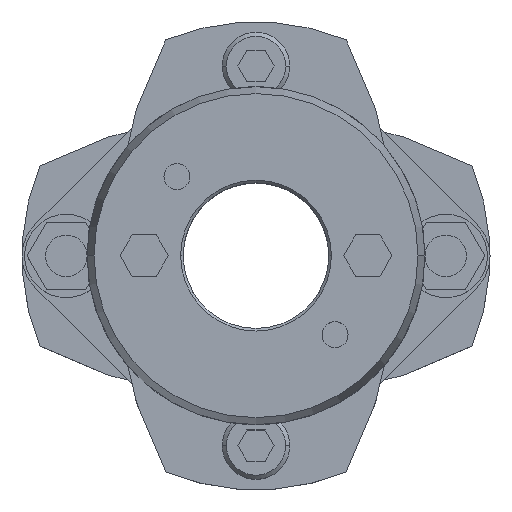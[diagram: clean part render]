
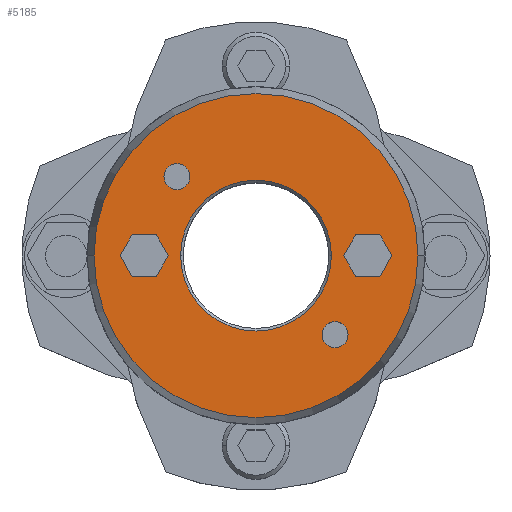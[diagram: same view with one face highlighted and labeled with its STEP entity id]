
A CAD part, top view. The second image highlights one B-rep face of the part: STEP entity #5185.
In plain terms, the highlighted planar face has unit normal (0, 0, 1).
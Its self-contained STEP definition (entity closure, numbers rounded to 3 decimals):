
#857=CARTESIAN_POINT('',(-14.5,0.,39.25));
#858=VERTEX_POINT('',#857);
#874=CARTESIAN_POINT('',(14.5,0.,39.25));
#875=VERTEX_POINT('',#874);
#882=CARTESIAN_POINT('',(0.,0.,39.25));
#883=DIRECTION('',(0.0,0.0,1.0));
#884=DIRECTION('',(-1.0,0.0,0.0));
#885=AXIS2_PLACEMENT_3D('',#882,#883,#884);
#886=CIRCLE('',#885,14.5);
#887=EDGE_CURVE('',#875,#858,#886,.T.);
#1003=CARTESIAN_POINT('',(31.16,0.,39.25));
#1004=VERTEX_POINT('',#1003);
#1013=CARTESIAN_POINT('',(-31.16,0.,39.25));
#1014=VERTEX_POINT('',#1013);
#1015=CARTESIAN_POINT('',(0.,0.,39.25));
#1016=DIRECTION('',(0.0,0.0,-1.0));
#1017=DIRECTION('',(1.0,0.0,0.0));
#1018=AXIS2_PLACEMENT_3D('',#1015,#1016,#1017);
#1019=CIRCLE('',#1018,31.16);
#1020=EDGE_CURVE('',#1004,#1014,#1019,.T.);
#1337=CARTESIAN_POINT('',(-17.703,15.203,39.25));
#1338=VERTEX_POINT('',#1337);
#1354=CARTESIAN_POINT('',(-12.703,15.203,39.25));
#1355=VERTEX_POINT('',#1354);
#1362=CARTESIAN_POINT('',(-15.203,15.203,39.25));
#1363=DIRECTION('',(0.0,0.0,-1.0));
#1364=DIRECTION('',(-1.0,0.0,0.0));
#1365=AXIS2_PLACEMENT_3D('',#1362,#1363,#1364);
#1366=CIRCLE('',#1365,2.5);
#1367=EDGE_CURVE('',#1338,#1355,#1366,.T.);
#1379=CARTESIAN_POINT('',(12.703,-15.203,39.25));
#1380=VERTEX_POINT('',#1379);
#1396=CARTESIAN_POINT('',(17.703,-15.203,39.25));
#1397=VERTEX_POINT('',#1396);
#1404=CARTESIAN_POINT('',(15.203,-15.203,39.25));
#1405=DIRECTION('',(0.0,0.0,-1.0));
#1406=DIRECTION('',(-1.0,0.0,0.0));
#1407=AXIS2_PLACEMENT_3D('',#1404,#1405,#1406);
#1408=CIRCLE('',#1407,2.5);
#1409=EDGE_CURVE('',#1380,#1397,#1408,.T.);
#3791=CARTESIAN_POINT('',(16.881,0.,39.25));
#3792=VERTEX_POINT('',#3791);
#3799=CARTESIAN_POINT('',(19.191,-4.,39.25));
#3800=VERTEX_POINT('',#3799);
#3801=CARTESIAN_POINT('',(19.191,-4.,39.25));
#3802=DIRECTION('',(-0.5,0.866,0.0));
#3803=VECTOR('',#3802,4.619);
#3804=LINE('',#3801,#3803);
#3805=EDGE_CURVE('',#3800,#3792,#3804,.T.);
#3829=CARTESIAN_POINT('',(19.191,4.,39.25));
#3830=VERTEX_POINT('',#3829);
#3837=CARTESIAN_POINT('',(16.881,0.,39.25));
#3838=DIRECTION('',(0.5,0.866,0.0));
#3839=VECTOR('',#3838,4.619);
#3840=LINE('',#3837,#3839);
#3841=EDGE_CURVE('',#3792,#3830,#3840,.T.);
#3860=CARTESIAN_POINT('',(23.809,4.,39.25));
#3861=VERTEX_POINT('',#3860);
#3868=CARTESIAN_POINT('',(19.191,4.,39.25));
#3869=DIRECTION('',(1.0,0.0,0.0));
#3870=VECTOR('',#3869,4.619);
#3871=LINE('',#3868,#3870);
#3872=EDGE_CURVE('',#3830,#3861,#3871,.T.);
#3891=CARTESIAN_POINT('',(26.119,0.,39.25));
#3892=VERTEX_POINT('',#3891);
#3899=CARTESIAN_POINT('',(23.809,4.,39.25));
#3900=DIRECTION('',(0.5,-0.866,0.0));
#3901=VECTOR('',#3900,4.619);
#3902=LINE('',#3899,#3901);
#3903=EDGE_CURVE('',#3861,#3892,#3902,.T.);
#3922=CARTESIAN_POINT('',(23.809,-4.,39.25));
#3923=VERTEX_POINT('',#3922);
#3930=CARTESIAN_POINT('',(26.119,0.,39.25));
#3931=DIRECTION('',(-0.5,-0.866,0.0));
#3932=VECTOR('',#3931,4.619);
#3933=LINE('',#3930,#3932);
#3934=EDGE_CURVE('',#3892,#3923,#3933,.T.);
#3952=CARTESIAN_POINT('',(23.809,-4.,39.25));
#3953=DIRECTION('',(-1.0,0.0,0.0));
#3954=VECTOR('',#3953,4.619);
#3955=LINE('',#3952,#3954);
#3956=EDGE_CURVE('',#3923,#3800,#3955,.T.);
#3991=CARTESIAN_POINT('',(-26.119,0.,39.25));
#3992=VERTEX_POINT('',#3991);
#3999=CARTESIAN_POINT('',(-23.809,-4.,39.25));
#4000=VERTEX_POINT('',#3999);
#4001=CARTESIAN_POINT('',(-23.809,-4.,39.25));
#4002=DIRECTION('',(-0.5,0.866,0.0));
#4003=VECTOR('',#4002,4.619);
#4004=LINE('',#4001,#4003);
#4005=EDGE_CURVE('',#4000,#3992,#4004,.T.);
#4029=CARTESIAN_POINT('',(-23.809,4.,39.25));
#4030=VERTEX_POINT('',#4029);
#4037=CARTESIAN_POINT('',(-26.119,0.,39.25));
#4038=DIRECTION('',(0.5,0.866,0.0));
#4039=VECTOR('',#4038,4.619);
#4040=LINE('',#4037,#4039);
#4041=EDGE_CURVE('',#3992,#4030,#4040,.T.);
#4060=CARTESIAN_POINT('',(-19.191,4.,39.25));
#4061=VERTEX_POINT('',#4060);
#4068=CARTESIAN_POINT('',(-23.809,4.,39.25));
#4069=DIRECTION('',(1.0,0.0,0.0));
#4070=VECTOR('',#4069,4.619);
#4071=LINE('',#4068,#4070);
#4072=EDGE_CURVE('',#4030,#4061,#4071,.T.);
#4091=CARTESIAN_POINT('',(-16.881,0.,39.25));
#4092=VERTEX_POINT('',#4091);
#4099=CARTESIAN_POINT('',(-19.191,4.,39.25));
#4100=DIRECTION('',(0.5,-0.866,0.0));
#4101=VECTOR('',#4100,4.619);
#4102=LINE('',#4099,#4101);
#4103=EDGE_CURVE('',#4061,#4092,#4102,.T.);
#4122=CARTESIAN_POINT('',(-19.191,-4.,39.25));
#4123=VERTEX_POINT('',#4122);
#4130=CARTESIAN_POINT('',(-16.881,0.,39.25));
#4131=DIRECTION('',(-0.5,-0.866,0.0));
#4132=VECTOR('',#4131,4.619);
#4133=LINE('',#4130,#4132);
#4134=EDGE_CURVE('',#4092,#4123,#4133,.T.);
#4152=CARTESIAN_POINT('',(-19.191,-4.,39.25));
#4153=DIRECTION('',(-1.0,0.0,0.0));
#4154=VECTOR('',#4153,4.619);
#4155=LINE('',#4152,#4154);
#4156=EDGE_CURVE('',#4123,#4000,#4155,.T.);
#4182=CARTESIAN_POINT('',(15.203,-15.203,39.25));
#4183=DIRECTION('',(0.0,0.0,-1.0));
#4184=DIRECTION('',(-1.0,0.0,0.0));
#4185=AXIS2_PLACEMENT_3D('',#4182,#4183,#4184);
#4186=CIRCLE('',#4185,2.5);
#4187=EDGE_CURVE('',#1397,#1380,#4186,.T.);
#4216=CARTESIAN_POINT('',(-15.203,15.203,39.25));
#4217=DIRECTION('',(0.0,0.0,-1.0));
#4218=DIRECTION('',(-1.0,0.0,0.0));
#4219=AXIS2_PLACEMENT_3D('',#4216,#4217,#4218);
#4220=CIRCLE('',#4219,2.5);
#4221=EDGE_CURVE('',#1355,#1338,#4220,.T.);
#5132=CARTESIAN_POINT('',(0.,0.,39.25));
#5133=DIRECTION('',(0.0,0.0,-1.0));
#5134=DIRECTION('',(1.0,0.0,0.0));
#5135=AXIS2_PLACEMENT_3D('',#5132,#5133,#5134);
#5136=CIRCLE('',#5135,31.16);
#5137=EDGE_CURVE('',#1014,#1004,#5136,.T.);
#5142=CARTESIAN_POINT('',(-2.682,0.,39.25));
#5143=DIRECTION('',(0.0,0.0,1.0));
#5144=DIRECTION('',(-1.0,0.0,0.0));
#5145=AXIS2_PLACEMENT_3D('',#5142,#5143,#5144);
#5146=PLANE('',#5145);
#5147=ORIENTED_EDGE('',*,*,#5137,.F.);
#5148=ORIENTED_EDGE('',*,*,#1020,.F.);
#5149=EDGE_LOOP('',(#5147,#5148));
#5150=FACE_OUTER_BOUND('',#5149,.T.);
#5151=ORIENTED_EDGE('',*,*,#3805,.T.);
#5152=ORIENTED_EDGE('',*,*,#3841,.T.);
#5153=ORIENTED_EDGE('',*,*,#3872,.T.);
#5154=ORIENTED_EDGE('',*,*,#3903,.T.);
#5155=ORIENTED_EDGE('',*,*,#3934,.T.);
#5156=ORIENTED_EDGE('',*,*,#3956,.T.);
#5157=EDGE_LOOP('',(#5151,#5152,#5153,#5154,#5155,#5156));
#5158=FACE_BOUND('',#5157,.T.);
#5159=ORIENTED_EDGE('',*,*,#4005,.T.);
#5160=ORIENTED_EDGE('',*,*,#4041,.T.);
#5161=ORIENTED_EDGE('',*,*,#4072,.T.);
#5162=ORIENTED_EDGE('',*,*,#4103,.T.);
#5163=ORIENTED_EDGE('',*,*,#4134,.T.);
#5164=ORIENTED_EDGE('',*,*,#4156,.T.);
#5165=EDGE_LOOP('',(#5159,#5160,#5161,#5162,#5163,#5164));
#5166=FACE_BOUND('',#5165,.T.);
#5167=ORIENTED_EDGE('',*,*,#1409,.T.);
#5168=ORIENTED_EDGE('',*,*,#4187,.T.);
#5169=EDGE_LOOP('',(#5167,#5168));
#5170=FACE_BOUND('',#5169,.T.);
#5171=ORIENTED_EDGE('',*,*,#1367,.T.);
#5172=ORIENTED_EDGE('',*,*,#4221,.T.);
#5173=EDGE_LOOP('',(#5171,#5172));
#5174=FACE_BOUND('',#5173,.T.);
#5175=ORIENTED_EDGE('',*,*,#887,.F.);
#5176=CARTESIAN_POINT('',(0.,0.,39.25));
#5177=DIRECTION('',(0.0,0.0,1.0));
#5178=DIRECTION('',(-1.0,0.0,0.0));
#5179=AXIS2_PLACEMENT_3D('',#5176,#5177,#5178);
#5180=CIRCLE('',#5179,14.5);
#5181=EDGE_CURVE('',#858,#875,#5180,.T.);
#5182=ORIENTED_EDGE('',*,*,#5181,.F.);
#5183=EDGE_LOOP('',(#5175,#5182));
#5184=FACE_BOUND('',#5183,.T.);
#5185=ADVANCED_FACE('',(#5150,#5158,#5166,#5170,#5174,#5184),#5146,.T.);
